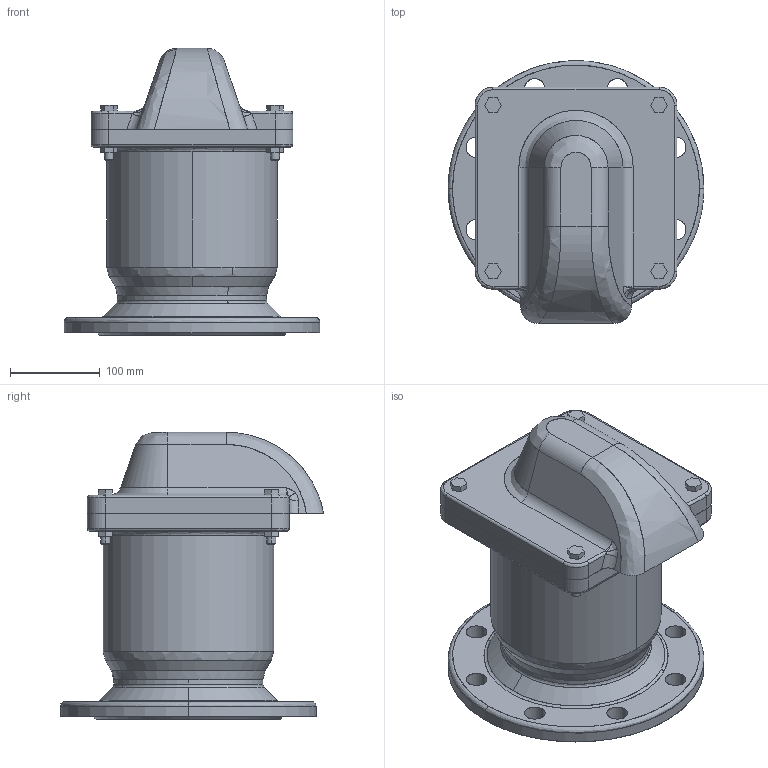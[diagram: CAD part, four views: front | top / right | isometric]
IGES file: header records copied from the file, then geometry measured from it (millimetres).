
Start section: SolidWorks IGES file using analytic representation for surfaces
Global section: file name: C:\Users\Administrator\Desktop\temp\0.IGS; native system: SolidWorks 2015; preprocessor: SolidWorks 2015; author: Administrator; date: 170528.100904; units: millimetre
Bounding box: 285 x 293.17 x 320 mm (x, y, z)
Surface area: 1018596.2 mm2 (no closed solid volume)
Topology: 0 solids, 0 shells, 328 faces, 5138 edges, 5122 vertices
Faces by surface type: bspline 197, revolution 131
